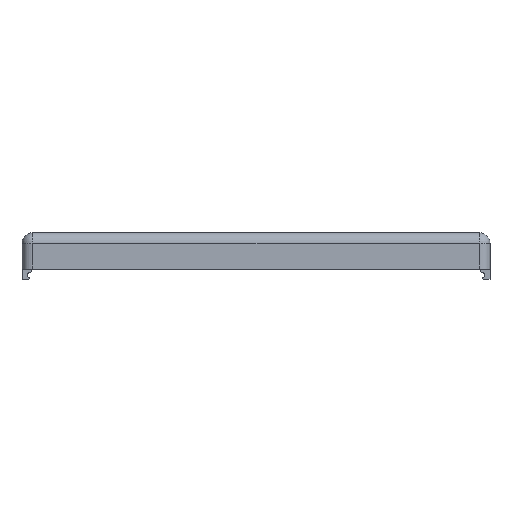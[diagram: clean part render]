
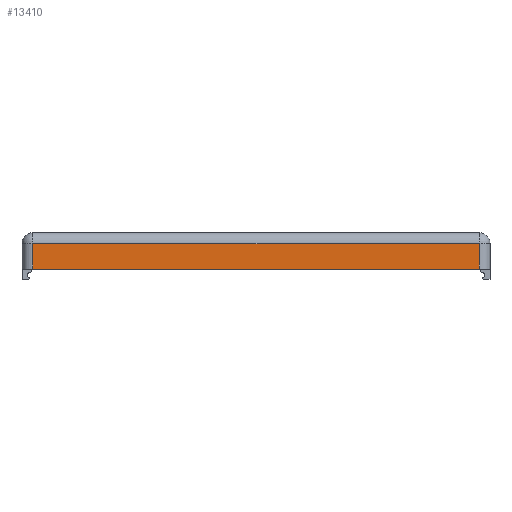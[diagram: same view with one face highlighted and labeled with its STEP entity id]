
A CAD part, front view. The second image highlights one B-rep face of the part: STEP entity #13410.
In plain terms, the highlighted planar face has unit normal (0, -1, 0).
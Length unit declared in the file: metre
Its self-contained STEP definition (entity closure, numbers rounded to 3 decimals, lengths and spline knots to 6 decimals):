
#3173=ORIENTED_EDGE('',*,*,#6555,.F.);
#3174=ORIENTED_EDGE('',*,*,#6540,.T.);
#3175=ORIENTED_EDGE('',*,*,#6554,.F.);
#3176=ORIENTED_EDGE('',*,*,#6556,.F.);
#6540=EDGE_CURVE('',#8310,#8309,#9380,.T.);
#6554=EDGE_CURVE('',#8315,#8309,#9388,.T.);
#6555=EDGE_CURVE('',#8310,#8316,#9389,.T.);
#6556=EDGE_CURVE('',#8316,#8315,#9390,.T.);
#8309=VERTEX_POINT('',#22305);
#8310=VERTEX_POINT('',#22307);
#8315=VERTEX_POINT('',#22326);
#8316=VERTEX_POINT('',#22335);
#9380=LINE('',#22306,#10616);
#9388=LINE('',#22330,#10624);
#9389=LINE('',#22334,#10625);
#9390=LINE('',#22336,#10626);
#10616=VECTOR('',#17590,1.);
#10624=VECTOR('',#17618,1.);
#10625=VECTOR('',#17625,1.);
#10626=VECTOR('',#17626,1.);
#11407=EDGE_LOOP('',(#3173,#3174,#3175,#3176));
#12323=FACE_BOUND('',#11407,.T.);
#13005=PLANE('',#14612);
#13410=ADVANCED_FACE('',(#12323),#13005,.F.);
#14612=AXIS2_PLACEMENT_3D('',#22333,#17623,#17624);
#17590=DIRECTION('',(1.,0.,0.));
#17618=DIRECTION('',(0.,0.,-1.));
#17623=DIRECTION('',(0.,1.,0.));
#17624=DIRECTION('',(0.,0.,1.));
#17625=DIRECTION('',(0.,0.,1.));
#17626=DIRECTION('',(1.,0.,0.));
#22305=CARTESIAN_POINT('',(0.123139,-0.003619,0.0001));
#22306=CARTESIAN_POINT('',(0.061,-0.003619,0.0001));
#22307=CARTESIAN_POINT('',(-0.001219,-0.003619,0.0001));
#22326=CARTESIAN_POINT('',(0.123139,-0.003619,0.0072));
#22330=CARTESIAN_POINT('',(0.123139,-0.003619,-0.01357));
#22333=CARTESIAN_POINT('',(0.061,-0.003619,-0.01552));
#22334=CARTESIAN_POINT('',(-0.001219,-0.003619,-0.01552));
#22335=CARTESIAN_POINT('',(-0.001219,-0.003619,0.0072));
#22336=CARTESIAN_POINT('',(0.061,-0.003619,0.0072));
